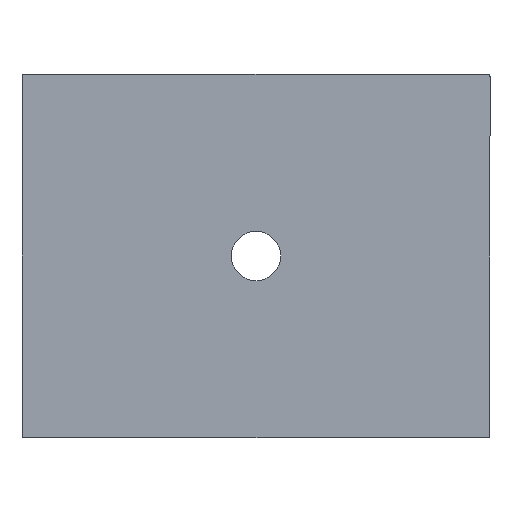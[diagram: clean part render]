
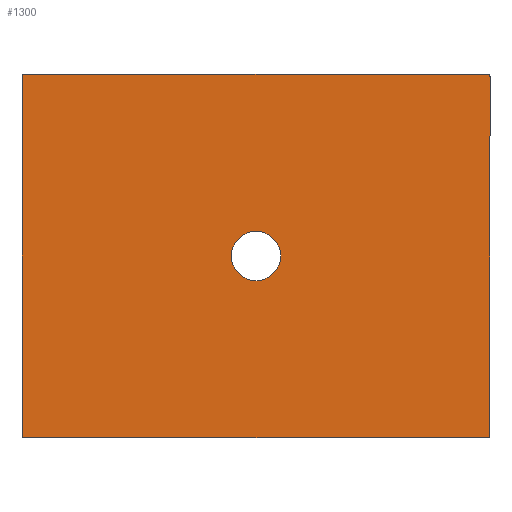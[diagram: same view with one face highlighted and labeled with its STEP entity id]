
A CAD part, front view. The second image highlights one B-rep face of the part: STEP entity #1300.
In plain terms, the highlighted planar face has unit normal (0, -1, 0).
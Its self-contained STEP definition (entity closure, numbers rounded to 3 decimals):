
#40 = CARTESIAN_POINT ( 'NONE',  ( 445.001, 0., -350. ) ) ;
#55 = VECTOR ( 'NONE', #600, 1000. ) ;
#80 = VERTEX_POINT ( 'NONE', #1000 ) ;
#136 = VERTEX_POINT ( 'NONE', #1184 ) ;
#166 = CARTESIAN_POINT ( 'NONE',  ( 450., 0., 350. ) ) ;
#181 = CARTESIAN_POINT ( 'NONE',  ( 450., 0., -350. ) ) ;
#182 = CARTESIAN_POINT ( 'NONE',  ( -445.001, 0., 350. ) ) ;
#183 = LINE ( 'NONE', #2399, #55 ) ;
#195 = VERTEX_POINT ( 'NONE', #1014 ) ;
#293 = CARTESIAN_POINT ( 'NONE',  ( 450., 0., 345.001 ) ) ;
#473 = ORIENTED_EDGE ( 'NONE', *, *, #1768, .T. ) ;
#505 = EDGE_CURVE ( 'NONE', #2376, #910, #1176, .T. ) ;
#575 = CARTESIAN_POINT ( 'NONE',  ( 447.929, 0., 350. ) ) ;
#600 = DIRECTION ( 'NONE',  ( 0., 0., 1. ) ) ;
#645 = CARTESIAN_POINT ( 'NONE',  ( -450., 0., 345.001 ) ) ;
#664 = DIRECTION ( 'NONE',  ( 0., 0., -1. ) ) ;
#678 = CARTESIAN_POINT ( 'NONE',  ( 445.001, 0., 350. ) ) ;
#706 = CARTESIAN_POINT ( 'NONE',  ( -450., 0., 350. ) ) ;
#714 = CARTESIAN_POINT ( 'NONE',  ( 450., 0., -345.001 ) ) ;
#754 = CARTESIAN_POINT ( 'NONE',  ( 450., 0., -347.929 ) ) ;
#755 = EDGE_LOOP ( 'NONE', ( #1386, #473, #1795, #2533, #1018, #770, #1396, #2206 ) ) ;
#766 = CARTESIAN_POINT ( 'NONE',  ( 445.001, 0., -350. ) ) ;
#770 = ORIENTED_EDGE ( 'NONE', *, *, #2453, .T. ) ;
#781 = FACE_BOUND ( 'NONE', #1367, .T. ) ;
#802 = EDGE_CURVE ( 'NONE', #2151, #2151, #2327, .T. ) ;
#825 = VERTEX_POINT ( 'NONE', #40 ) ;
#887 = CARTESIAN_POINT ( 'NONE',  ( 450., 0., 345.001 ) ) ;
#890 = EDGE_CURVE ( 'NONE', #2674, #910, #2628, .T. ) ;
#909 = CARTESIAN_POINT ( 'NONE',  ( -450., 0., -347.929 ) ) ;
#910 = VERTEX_POINT ( 'NONE', #678 ) ;
#938 = LINE ( 'NONE', #166, #2517 ) ;
#966 = VECTOR ( 'NONE', #1123, 1000. ) ;
#969 = EDGE_CURVE ( 'NONE', #825, #136, #2103, .T. ) ;
#1000 = CARTESIAN_POINT ( 'NONE',  ( -450., 0., -345.001 ) ) ;
#1014 = CARTESIAN_POINT ( 'NONE',  ( -450., 0., 345.001 ) ) ;
#1018 = ORIENTED_EDGE ( 'NONE', *, *, #890, .F. ) ;
#1123 = DIRECTION ( 'NONE',  ( 1., 0., 0. ) ) ;
#1176 =( BOUNDED_CURVE ( )  B_SPLINE_CURVE ( 3, ( #887, #1234, #575, #2608 ),
 .UNSPECIFIED., .F., .T. ) 
 B_SPLINE_CURVE_WITH_KNOTS ( ( 4, 4 ),
 ( 5.498, 7.068 ),
 .UNSPECIFIED. ) 
 CURVE ( )  GEOMETRIC_REPRESENTATION_ITEM ( )  RATIONAL_B_SPLINE_CURVE ( ( 1., 0.805, 0.805, 1. ) ) 
 REPRESENTATION_ITEM ( '' )  );
#1184 = CARTESIAN_POINT ( 'NONE',  ( -445.001, 0., -350. ) ) ;
#1214 = VERTEX_POINT ( 'NONE', #714 ) ;
#1228 = AXIS2_PLACEMENT_3D ( 'NONE', #2495, #1584, #2519 ) ;
#1234 = CARTESIAN_POINT ( 'NONE',  ( 450., 0., 347.929 ) ) ;
#1300 = ADVANCED_FACE ( 'NONE', ( #781, #2732 ), #2677, .F. ) ;
#1367 = EDGE_LOOP ( 'NONE', ( #1516 ) ) ;
#1386 = ORIENTED_EDGE ( 'NONE', *, *, #969, .F. ) ;
#1396 = ORIENTED_EDGE ( 'NONE', *, *, #2534, .F. ) ;
#1462 =( BOUNDED_CURVE ( )  B_SPLINE_CURVE ( 3, ( #182, #2592, #2333, #645 ),
 .UNSPECIFIED., .F., .T. ) 
 B_SPLINE_CURVE_WITH_KNOTS ( ( 4, 4 ),
 ( 5.498, 7.068 ),
 .UNSPECIFIED. ) 
 CURVE ( )  GEOMETRIC_REPRESENTATION_ITEM ( )  RATIONAL_B_SPLINE_CURVE ( ( 1., 0.805, 0.805, 1. ) ) 
 REPRESENTATION_ITEM ( '' )  );
#1482 = EDGE_CURVE ( 'NONE', #80, #136, #2820, .T. ) ;
#1516 = ORIENTED_EDGE ( 'NONE', *, *, #802, .F. ) ;
#1584 = DIRECTION ( 'NONE',  ( 0., 1., 0. ) ) ;
#1638 = VECTOR ( 'NONE', #1881, 1000. ) ;
#1768 = EDGE_CURVE ( 'NONE', #825, #1214, #2324, .T. ) ;
#1795 = ORIENTED_EDGE ( 'NONE', *, *, #2419, .F. ) ;
#1881 = DIRECTION ( 'NONE',  ( -1., 0., 0. ) ) ;
#1948 = CARTESIAN_POINT ( 'NONE',  ( 0., 0., 0. ) ) ;
#1971 = CARTESIAN_POINT ( 'NONE',  ( -447.929, 0., -350. ) ) ;
#2007 = CARTESIAN_POINT ( 'NONE',  ( 447.929, 0., -350. ) ) ;
#2103 = LINE ( 'NONE', #181, #1638 ) ;
#2151 = VERTEX_POINT ( 'NONE', #2400 ) ;
#2206 = ORIENTED_EDGE ( 'NONE', *, *, #1482, .T. ) ;
#2245 = CARTESIAN_POINT ( 'NONE',  ( 450., 0., -345.001 ) ) ;
#2324 =( BOUNDED_CURVE ( )  B_SPLINE_CURVE ( 3, ( #766, #2007, #754, #2245 ),
 .UNSPECIFIED., .F., .T. ) 
 B_SPLINE_CURVE_WITH_KNOTS ( ( 4, 4 ),
 ( 5.498, 7.068 ),
 .UNSPECIFIED. ) 
 CURVE ( )  GEOMETRIC_REPRESENTATION_ITEM ( )  RATIONAL_B_SPLINE_CURVE ( ( 1., 0.805, 0.805, 1. ) ) 
 REPRESENTATION_ITEM ( '' )  );
#2327 = CIRCLE ( 'NONE', #2430, 47.5 ) ;
#2333 = CARTESIAN_POINT ( 'NONE',  ( -450., 0., 347.929 ) ) ;
#2367 = DIRECTION ( 'NONE',  ( 0., -1., 0. ) ) ;
#2376 = VERTEX_POINT ( 'NONE', #293 ) ;
#2399 = CARTESIAN_POINT ( 'NONE',  ( -450., 0., -350. ) ) ;
#2400 = CARTESIAN_POINT ( 'NONE',  ( 0., 0., -47.5 ) ) ;
#2419 = EDGE_CURVE ( 'NONE', #2376, #1214, #938, .T. ) ;
#2430 = AXIS2_PLACEMENT_3D ( 'NONE', #1948, #2367, #664 ) ;
#2453 = EDGE_CURVE ( 'NONE', #2674, #195, #1462, .T. ) ;
#2488 = CARTESIAN_POINT ( 'NONE',  ( -445.001, 0., 350. ) ) ;
#2495 = CARTESIAN_POINT ( 'NONE',  ( 0., 0., 0. ) ) ;
#2517 = VECTOR ( 'NONE', #2807, 1000. ) ;
#2519 = DIRECTION ( 'NONE',  ( 0., 0., 1. ) ) ;
#2533 = ORIENTED_EDGE ( 'NONE', *, *, #505, .T. ) ;
#2534 = EDGE_CURVE ( 'NONE', #80, #195, #183, .T. ) ;
#2592 = CARTESIAN_POINT ( 'NONE',  ( -447.929, 0., 350. ) ) ;
#2608 = CARTESIAN_POINT ( 'NONE',  ( 445.001, 0., 350. ) ) ;
#2628 = LINE ( 'NONE', #706, #966 ) ;
#2647 = CARTESIAN_POINT ( 'NONE',  ( -445.001, 0., -350. ) ) ;
#2674 = VERTEX_POINT ( 'NONE', #2488 ) ;
#2677 = PLANE ( 'NONE',  #1228 ) ;
#2732 = FACE_OUTER_BOUND ( 'NONE', #755, .T. ) ;
#2803 = CARTESIAN_POINT ( 'NONE',  ( -450., 0., -345.001 ) ) ;
#2807 = DIRECTION ( 'NONE',  ( 0., 0., -1. ) ) ;
#2820 =( BOUNDED_CURVE ( )  B_SPLINE_CURVE ( 3, ( #2803, #909, #1971, #2647 ),
 .UNSPECIFIED., .F., .T. ) 
 B_SPLINE_CURVE_WITH_KNOTS ( ( 4, 4 ),
 ( 5.498, 7.068 ),
 .UNSPECIFIED. ) 
 CURVE ( )  GEOMETRIC_REPRESENTATION_ITEM ( )  RATIONAL_B_SPLINE_CURVE ( ( 1., 0.805, 0.805, 1. ) ) 
 REPRESENTATION_ITEM ( '' )  );
